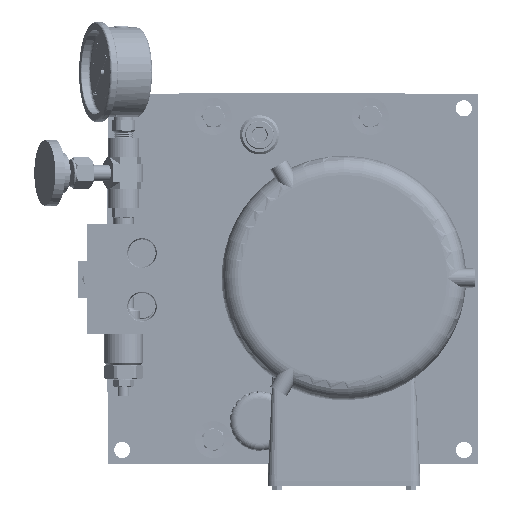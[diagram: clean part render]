
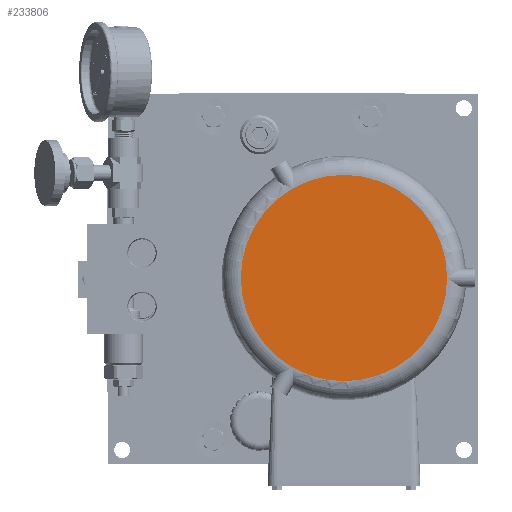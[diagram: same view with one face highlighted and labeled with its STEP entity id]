
A CAD part, left-side view. The second image highlights one B-rep face of the part: STEP entity #233806.
In plain terms, the highlighted planar face has unit normal (-1, 0, 0).
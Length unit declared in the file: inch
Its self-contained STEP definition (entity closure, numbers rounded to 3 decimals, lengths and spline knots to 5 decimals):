
#2730 = EDGE_CURVE ( 'NONE', #275285, #205619, #264431, .T. ) ;
#9757 = AXIS2_PLACEMENT_3D ( 'NONE', #90148, #246759, #141392 ) ;
#23512 = CARTESIAN_POINT ( 'NONE',  ( -9.75298, 4.16351, 12.62369 ) ) ;
#34745 = ORIENTED_EDGE ( 'NONE', *, *, #86793, .F. ) ;
#41895 = DIRECTION ( 'NONE',  ( 1., 0., 0. ) ) ;
#45100 = CARTESIAN_POINT ( 'NONE',  ( -9.75298, 6.9571, 12.62369 ) ) ;
#56129 = CIRCLE ( 'NONE', #98438, 2.79359 ) ;
#78521 = CIRCLE ( 'NONE', #9757, 2.79359 ) ;
#80055 = DIRECTION ( 'NONE',  ( 0., 1., 0. ) ) ;
#86793 = EDGE_CURVE ( 'NONE', #205619, #262383, #78521, .T. ) ;
#90148 = CARTESIAN_POINT ( 'NONE',  ( -9.75298, 6.9571, 12.62369 ) ) ;
#98438 = AXIS2_PLACEMENT_3D ( 'NONE', #119647, #41895, #292973 ) ;
#104332 = CIRCLE ( 'NONE', #130817, 2.79359 ) ;
#105191 = DIRECTION ( 'NONE',  ( 1., 0., 0. ) ) ;
#109624 = DIRECTION ( 'NONE',  ( 1., 0., 0. ) ) ;
#113170 = CARTESIAN_POINT ( 'NONE',  ( -9.75298, 9.75069, 12.62369 ) ) ;
#119647 = CARTESIAN_POINT ( 'NONE',  ( -9.75298, 6.9571, 12.62369 ) ) ;
#130817 = AXIS2_PLACEMENT_3D ( 'NONE', #45100, #144366, #246514 ) ;
#135419 = ORIENTED_EDGE ( 'NONE', *, *, #139447, .F. ) ;
#137213 = VERTEX_POINT ( 'NONE', #23512 ) ;
#139447 = EDGE_CURVE ( 'NONE', #262383, #137213, #104332, .T. ) ;
#141392 = DIRECTION ( 'NONE',  ( 0., 1., 0. ) ) ;
#144366 = DIRECTION ( 'NONE',  ( 1., 0., 0. ) ) ;
#152711 = CARTESIAN_POINT ( 'NONE',  ( -9.75298, 6.9571, 12.62369 ) ) ;
#166151 = DIRECTION ( 'NONE',  ( 0., 1., 0. ) ) ;
#174256 = PLANE ( 'NONE',  #254400 ) ;
#181141 = CARTESIAN_POINT ( 'NONE',  ( -9.75298, 6.9571, 12.62369 ) ) ;
#201147 = ORIENTED_EDGE ( 'NONE', *, *, #212936, .F. ) ;
#201352 = AXIS2_PLACEMENT_3D ( 'NONE', #181141, #105191, #166151 ) ;
#205619 = VERTEX_POINT ( 'NONE', #113170 ) ;
#212936 = EDGE_CURVE ( 'NONE', #137213, #275285, #56129, .T. ) ;
#218646 = CARTESIAN_POINT ( 'NONE',  ( -9.75298, 8.3539, 10.20437 ) ) ;
#229250 = EDGE_LOOP ( 'NONE', ( #201147, #135419, #34745, #290075 ) ) ;
#233806 = ADVANCED_FACE ( 'NONE', ( #299669 ), #174256, .F. ) ;
#246514 = DIRECTION ( 'NONE',  ( 0., 1., 0. ) ) ;
#246759 = DIRECTION ( 'NONE',  ( 1., 0., 0. ) ) ;
#254400 = AXIS2_PLACEMENT_3D ( 'NONE', #152711, #109624, #80055 ) ;
#262383 = VERTEX_POINT ( 'NONE', #305282 ) ;
#264431 = CIRCLE ( 'NONE', #201352, 2.79359 ) ;
#275285 = VERTEX_POINT ( 'NONE', #218646 ) ;
#290075 = ORIENTED_EDGE ( 'NONE', *, *, #2730, .F. ) ;
#292973 = DIRECTION ( 'NONE',  ( 0., 1., 0. ) ) ;
#299669 = FACE_OUTER_BOUND ( 'NONE', #229250, .T. ) ;
#305282 = CARTESIAN_POINT ( 'NONE',  ( -9.75298, 8.3539, 15.04302 ) ) ;
